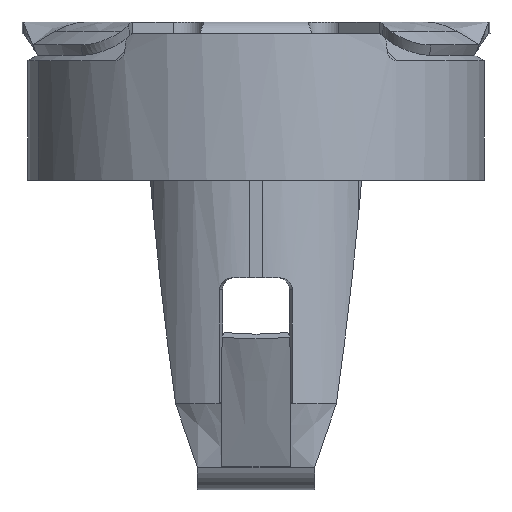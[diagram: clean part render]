
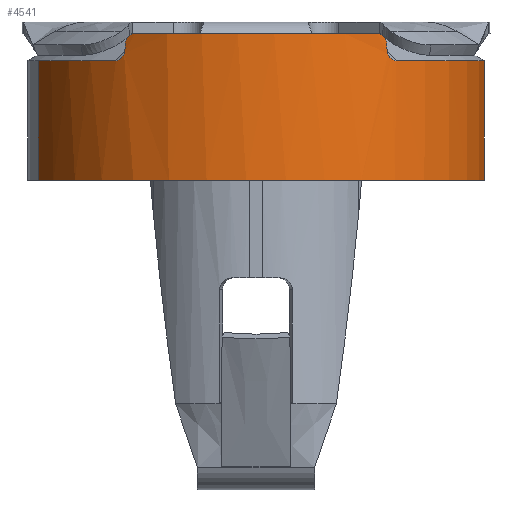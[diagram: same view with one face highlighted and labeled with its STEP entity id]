
A CAD part, left-side view. The second image highlights one B-rep face of the part: STEP entity #4541.
In plain terms, the highlighted cylindrical face has radius 3.9 mm (diameter 7.8 mm), a partial arc.
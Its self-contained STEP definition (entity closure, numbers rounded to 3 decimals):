
#236=CARTESIAN_POINT(' ',(-1.173,3.719,-0.662));
#237=VERTEX_POINT(' ',#236);
#251=CARTESIAN_POINT(' ',(0.,0.,-0.662));
#256=DIRECTION(' ',(0.,0.,-1.));
#261=DIRECTION(' ',(-0.789,0.614,0.));
#266=AXIS2_PLACEMENT_3D(' ',#251,#256,#261);
#271=CIRCLE('',#266,3.9);
#276=CARTESIAN_POINT(' ',(-3.079,2.394,-0.662));
#277=VERTEX_POINT(' ',#276);
#281=EDGE_CURVE(' ',#277,#237,#271,.T.);
#3751=CARTESIAN_POINT(' ',(1.173,-3.719,-2.7));
#3756=DIRECTION(' ',(0.,0.,1.));
#3761=VECTOR(' ',#3756,1.);
#3766=LINE('',#3751,#3761);
#3771=CARTESIAN_POINT(' ',(1.173,-3.719,-2.7));
#3772=VERTEX_POINT(' ',#3771);
#3776=CARTESIAN_POINT(' ',(1.173,-3.719,-0.662));
#3777=VERTEX_POINT(' ',#3776);
#3781=EDGE_CURVE(' ',#3772,#3777,#3766,.T.);
#3816=CARTESIAN_POINT(' ',(-1.173,3.719,-2.7));
#3817=VERTEX_POINT(' ',#3816);
#3831=CARTESIAN_POINT(' ',(-1.173,3.719,-2.7));
#3836=DIRECTION(' ',(0.,0.,1.));
#3841=VECTOR(' ',#3836,1.);
#3846=LINE('',#3831,#3841);
#3851=EDGE_CURVE(' ',#3817,#237,#3846,.T.);
#4151=CARTESIAN_POINT(' ',(0.,0.,0.));
#4156=DIRECTION(' ',(0.,0.,-1.));
#4161=DIRECTION(' ',(0.301,-0.954,0.));
#4166=AXIS2_PLACEMENT_3D(' ',#4151,#4156,#4161);
#4171=CYLINDRICAL_SURFACE(' ',#4166,3.9);
#4176=ORIENTED_EDGE(' ',*,*,#3781,.T.);
#4181=CARTESIAN_POINT(' ',(0.,0.,-0.662));
#4186=DIRECTION(' ',(0.,0.,-1.));
#4191=DIRECTION(' ',(0.301,-0.954,0.));
#4196=AXIS2_PLACEMENT_3D(' ',#4181,#4186,#4191);
#4201=CIRCLE('',#4196,3.9);
#4206=CARTESIAN_POINT(' ',(-3.079,-2.394,-0.662));
#4207=VERTEX_POINT(' ',#4206);
#4211=EDGE_CURVE(' ',#3777,#4207,#4201,.T.);
#4216=ORIENTED_EDGE(' ',*,*,#4211,.T.);
#4221=CARTESIAN_POINT(' ',(-3.066,-2.408,-0.448));
#4226=DIRECTION(' ',(0.798,0.603,-0.01));
#4231=DIRECTION(' ',(-0.062,0.066,-0.996));
#4236=AXIS2_PLACEMENT_3D(' ',#4221,#4226,#4231);
#4241=CIRCLE('',#4236,0.215);
#4246=CARTESIAN_POINT(' ',(-3.195,-2.237,-0.434));
#4247=VERTEX_POINT(' ',#4246);
#4251=EDGE_CURVE(' ',#4207,#4247,#4241,.T.);
#4256=ORIENTED_EDGE(' ',*,*,#4251,.T.);
#4261=CARTESIAN_POINT(' ',(-3.195,-2.237,-0.434));
#4266=DIRECTION(' ',(0.,0.,1.));
#4271=VECTOR(' ',#4266,1.);
#4276=LINE('',#4261,#4271);
#4281=CARTESIAN_POINT(' ',(-3.195,-2.237,-0.4));
#4282=VERTEX_POINT(' ',#4281);
#4286=EDGE_CURVE(' ',#4247,#4282,#4276,.T.);
#4291=ORIENTED_EDGE(' ',*,*,#4286,.T.);
#4296=CARTESIAN_POINT(' ',(-3.303,-2.069,-0.4));
#4301=DIRECTION(' ',(-0.84,-0.543,-0.011));
#4306=DIRECTION(' ',(0.543,-0.84,0.));
#4311=AXIS2_PLACEMENT_3D(' ',#4296,#4301,#4306);
#4316=CIRCLE('',#4311,0.2);
#4321=CARTESIAN_POINT(' ',(-3.305,-2.07,-0.2));
#4322=VERTEX_POINT(' ',#4321);
#4326=EDGE_CURVE(' ',#4282,#4322,#4316,.T.);
#4331=ORIENTED_EDGE(' ',*,*,#4326,.T.);
#4336=CARTESIAN_POINT(' ',(0.,0.,-0.2));
#4341=DIRECTION(' ',(0.,0.,1.));
#4346=DIRECTION(' ',(-0.847,0.531,0.));
#4351=AXIS2_PLACEMENT_3D(' ',#4336,#4341,#4346);
#4356=CIRCLE('',#4351,3.9);
#4361=CARTESIAN_POINT(' ',(-3.305,2.07,-0.2));
#4362=VERTEX_POINT(' ',#4361);
#4366=EDGE_CURVE(' ',#4362,#4322,#4356,.T.);
#4371=ORIENTED_EDGE(' ',*,*,#4366,.F.);
#4376=CARTESIAN_POINT(' ',(-3.303,2.069,-0.4));
#4381=DIRECTION(' ',(-0.84,0.542,-0.012));
#4386=DIRECTION(' ',(-0.011,0.006,1.));
#4391=AXIS2_PLACEMENT_3D(' ',#4376,#4381,#4386);
#4396=CIRCLE('',#4391,0.2);
#4401=CARTESIAN_POINT(' ',(-3.195,2.237,-0.4));
#4402=VERTEX_POINT(' ',#4401);
#4406=EDGE_CURVE(' ',#4362,#4402,#4396,.T.);
#4411=ORIENTED_EDGE(' ',*,*,#4406,.T.);
#4416=CARTESIAN_POINT(' ',(-3.195,2.237,-0.434));
#4421=DIRECTION(' ',(0.,0.,1.));
#4426=VECTOR(' ',#4421,1.);
#4431=LINE('',#4416,#4426);
#4436=CARTESIAN_POINT(' ',(-3.195,2.237,-0.434));
#4437=VERTEX_POINT(' ',#4436);
#4441=EDGE_CURVE(' ',#4437,#4402,#4431,.T.);
#4446=ORIENTED_EDGE(' ',*,*,#4441,.F.);
#4451=CARTESIAN_POINT(' ',(-3.065,2.41,-0.447));
#4456=DIRECTION(' ',(0.799,-0.602,-0.008));
#4461=DIRECTION(' ',(-0.6,-0.798,0.058));
#4466=AXIS2_PLACEMENT_3D(' ',#4451,#4456,#4461);
#4471=CIRCLE('',#4466,0.216);
#4476=EDGE_CURVE(' ',#4437,#277,#4471,.T.);
#4481=ORIENTED_EDGE(' ',*,*,#4476,.T.);
#4486=ORIENTED_EDGE(' ',*,*,#281,.T.);
#4491=ORIENTED_EDGE(' ',*,*,#3851,.F.);
#4496=CARTESIAN_POINT(' ',(0.,0.,-2.7));
#4501=DIRECTION(' ',(0.,0.,-1.));
#4506=DIRECTION(' ',(0.301,-0.954,0.));
#4511=AXIS2_PLACEMENT_3D(' ',#4496,#4501,#4506);
#4516=CIRCLE('',#4511,3.9);
#4521=EDGE_CURVE(' ',#3772,#3817,#4516,.T.);
#4526=ORIENTED_EDGE(' ',*,*,#4521,.F.);
#4531=EDGE_LOOP(' ',(#4176,#4216,#4256,#4291,#4331,#4371,#4411,#4446,#4481,#4486,#4491,#4526));
#4536=FACE_OUTER_BOUND(' ',#4531,.T.);
#4541=ADVANCED_FACE('',(#4536),#4171,.T.);
